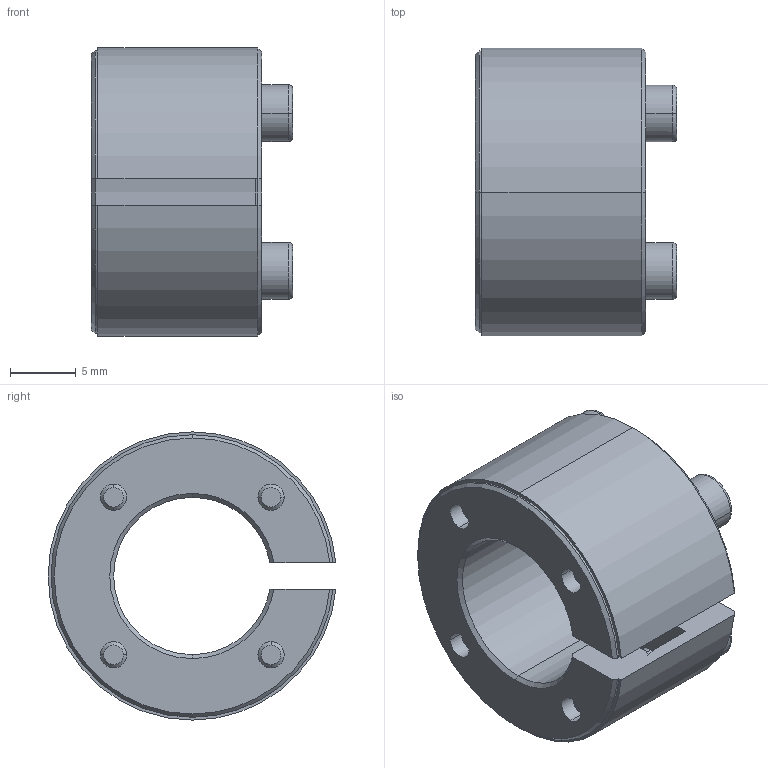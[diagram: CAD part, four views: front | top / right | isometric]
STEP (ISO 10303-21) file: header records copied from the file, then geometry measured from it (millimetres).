
FILE_DESCRIPTION (( 'STEP AP214' ), '1' );
FILE_NAME ('SAPL-E-12X22.STEP', '2024-07-12T02:02:07', ( '决扁浅何厘' ), ( '' ), 'SwSTEP 2.0', 'SolidWorks 2024', '' );
FILE_SCHEMA (( 'AUTOMOTIVE_DESIGN' ));
Length unit declared in the file: millimetre
Products named in the file (1): SAPL-E-12X22
Bounding box: 15.35 x 21.95 x 22 mm (x, y, z)
Volume: 2853.8 mm3; surface area: 3288.3 mm2
Topology: 1 solids, 1 shells, 143 faces, 361 edges, 228 vertices
Faces by surface type: plane 52, cylinder 48, cone 35, torus 8
Entity records: 4408 total; most frequent: CARTESIAN_POINT 810, DIRECTION 802, ORIENTED_EDGE 722, EDGE_CURVE 361, AXIS2_PLACEMENT_3D 321, VERTEX_POINT 228, CIRCLE 177, EDGE_LOOP 165
